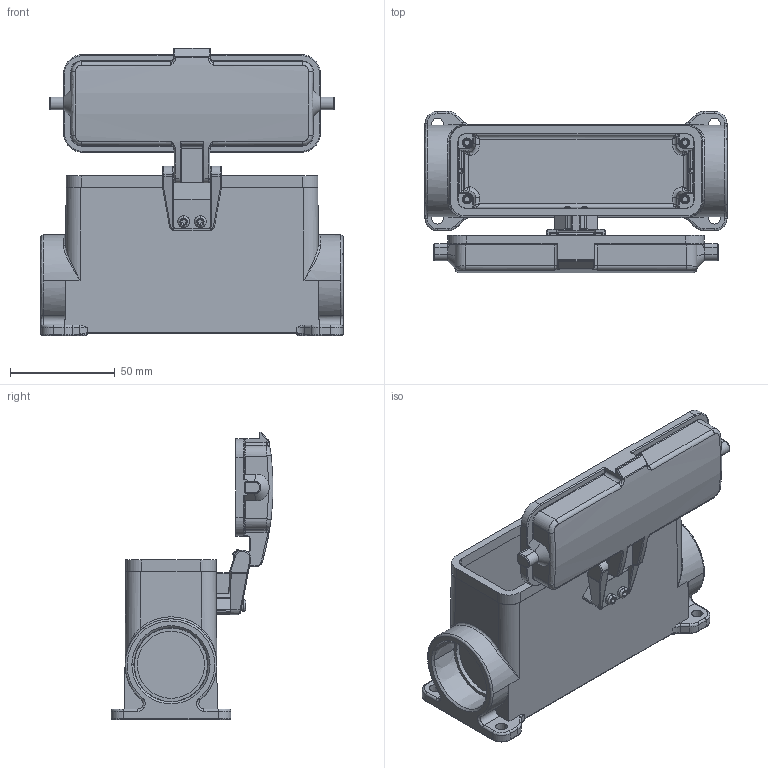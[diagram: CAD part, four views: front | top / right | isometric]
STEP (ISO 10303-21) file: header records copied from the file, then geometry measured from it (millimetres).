
FILE_DESCRIPTION (( 'STEP AP203' ), '1' );
FILE_NAME ('H24B-SDRH-BO-M32.STEP', '2020-11-21T06:22:06', ( '' ), ( '' ), 'SwSTEP 2.0', 'SolidWorks 2016', '' );
FILE_SCHEMA (( 'CONFIG_CONTROL_DESIGN' ));
Products named in the file (8): baohugaitanpian; 0000241120; baohugailuosi; b-xl-t-gudingjian; 24b-surface-m-highconstruction; H24B-SDRH-BO-M32; mifengdian; chaxiao
Assembly tree (8 placements, depth 2):
  H24B-SDRH-BO-M32
    mifengdian
    chaxiao
    b-xl-t-gudingjian
    baohugaitanpian
    baohugailuosi  x2
    0000241120
    24b-surface-m-highconstruction
Bounding box: 144 x 77.09 x 136.91 mm (x, y, z)
Volume: 171291.9 mm3; surface area: 95900.3 mm2
Topology: 8 solids, 8 shells, 1204 faces, 2941 edges, 1766 vertices
Faces by surface type: cylinder 537, bspline 342, plane 251, cone 74
Entity records: 160387 total; most frequent: CARTESIAN_POINT 137189, ORIENTED_EDGE 5160, DIRECTION 4019, EDGE_CURVE 2580, VERTEX_POINT 1549, AXIS2_PLACEMENT_3D 1472, EDGE_LOOP 1113, VECTOR 1075
